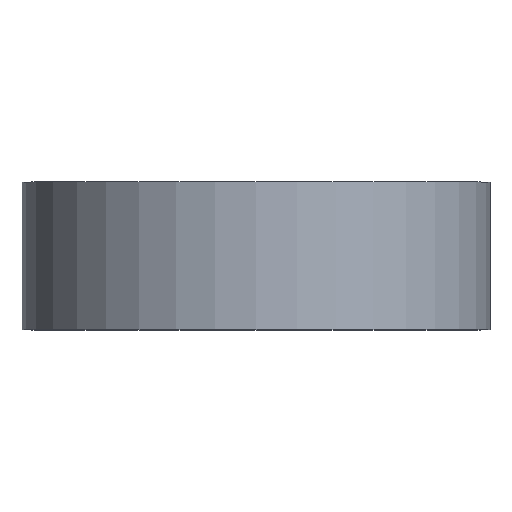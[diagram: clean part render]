
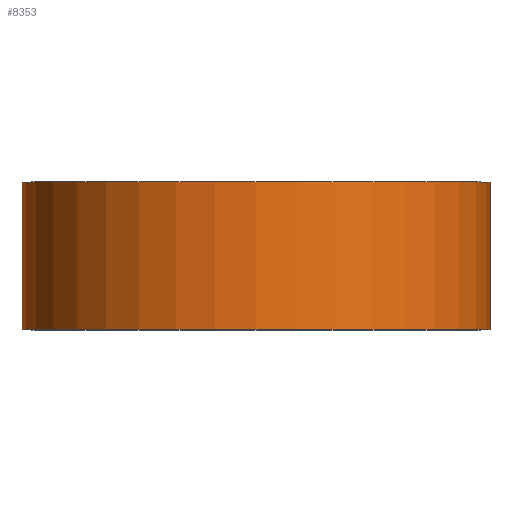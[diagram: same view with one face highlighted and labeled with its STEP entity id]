
A CAD part, top view. The second image highlights one B-rep face of the part: STEP entity #8353.
In plain terms, the highlighted cylindrical face has radius 19 mm (diameter 38 mm), a partial arc.
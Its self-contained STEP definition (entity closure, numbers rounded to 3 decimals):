
#1593=DIRECTION('',(0.,-1.,0.));
#1594=VECTOR('',#1593,12.);
#1595=CARTESIAN_POINT('',(-19.,12.,0.));
#1596=LINE('',#1595,#1594);
#1766=CARTESIAN_POINT('',(0.,0.,0.));
#1767=DIRECTION('',(0.,1.,0.));
#1768=DIRECTION('',(-1.,0.,0.));
#1769=AXIS2_PLACEMENT_3D('',#1766,#1767,#1768);
#1811=CARTESIAN_POINT('',(0.,12.,0.));
#1812=DIRECTION('',(0.,-1.,0.));
#1813=DIRECTION('',(1.,0.,0.));
#1814=AXIS2_PLACEMENT_3D('',#1811,#1812,#1813);
#1867=DIRECTION('',(0.,-1.,0.));
#1868=VECTOR('',#1867,12.);
#1869=CARTESIAN_POINT('',(19.,12.,0.));
#1870=LINE('',#1869,#1868);
#5661=CARTESIAN_POINT('',(19.,0.,0.));
#5662=CARTESIAN_POINT('',(-19.,0.,0.));
#5663=VERTEX_POINT('',#5661);
#5664=VERTEX_POINT('',#5662);
#5665=CARTESIAN_POINT('',(19.,12.,0.));
#5666=VERTEX_POINT('',#5665);
#5667=CARTESIAN_POINT('',(-19.,12.,0.));
#5668=VERTEX_POINT('',#5667);
#8342=CARTESIAN_POINT('',(0.,0.,0.));
#8343=DIRECTION('',(0.,1.,0.));
#8344=DIRECTION('',(1.,0.,0.));
#8345=AXIS2_PLACEMENT_3D('',#8342,#8343,#8344);
#8346=CYLINDRICAL_SURFACE('',#8345,19.);
#8347=ORIENTED_EDGE('',*,*,#8205,.F.);
#8348=ORIENTED_EDGE('',*,*,#8182,.F.);
#8349=ORIENTED_EDGE('',*,*,#8309,.F.);
#8350=ORIENTED_EDGE('',*,*,#8178,.T.);
#8351=EDGE_LOOP('',(#8347,#8348,#8349,#8350));
#8352=FACE_OUTER_BOUND('',#8351,.F.);
#1770=CIRCLE('',#1769,19.);
#1815=CIRCLE('',#1814,19.);
#8178=EDGE_CURVE('',#5666,#5663,#1870,.T.);
#8182=EDGE_CURVE('',#5668,#5664,#1596,.T.);
#8205=EDGE_CURVE('',#5664,#5663,#1770,.T.);
#8309=EDGE_CURVE('',#5666,#5668,#1815,.T.);
#8353=ADVANCED_FACE('',(#8352),#8346,.T.);
